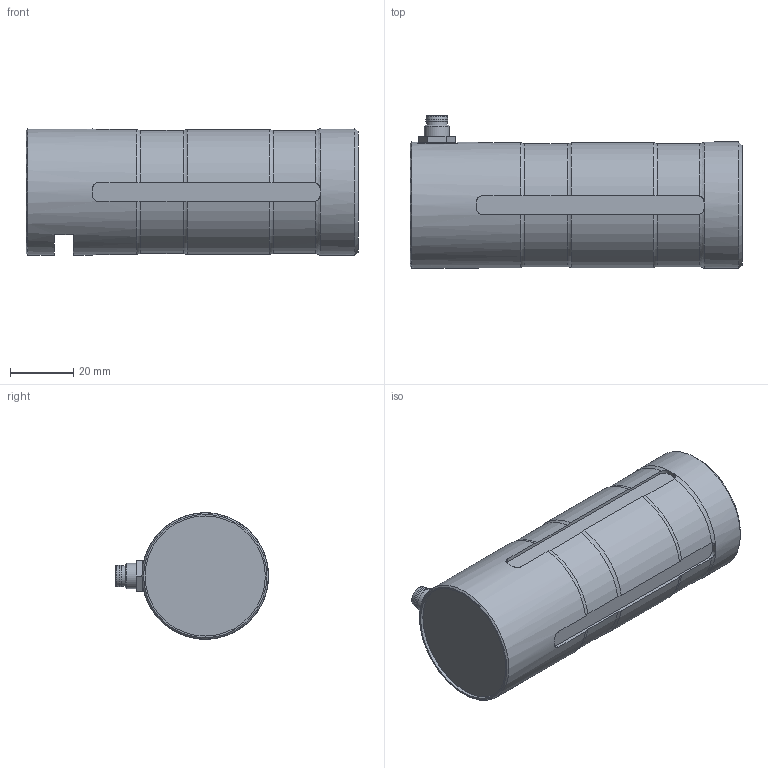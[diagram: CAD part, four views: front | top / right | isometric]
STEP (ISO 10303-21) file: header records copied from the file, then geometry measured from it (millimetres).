
FILE_DESCRIPTION(/* description */ ('Alibre Inc.'),/* implementation_level */ '2;1');
FILE_NAME(/* name */ 'export1',/* time_stamp */ '2018-07-25T10:45:45+02:00',/* author */ (''),/* organization */ (''),/* preprocessor_version */ 'ST-DEVELOPER v17',/* originating_system */ 'Alibre',/* authorisation */ '');
FILE_SCHEMA (('CONFIG_CONTROL_DESIGN'));
Length unit declared in the file: millimetre
Products named in the file (3): ID_1; ID_2
Bounding box: 105 x 48.36 x 40 mm (x, y, z)
Volume: 126738.7 mm3; surface area: 17904.6 mm2
Topology: 2 solids, 2 shells, 211 faces, 548 edges, 358 vertices
Faces by surface type: plane 98, cylinder 75, torus 20, cone 10, sphere 8
Full cylindrical faces by diameter (mm): 0.6 x8, 0.65 x8, 0.9 x8, 6.5 x1, 6.9 x2, 6.95 x1, 7.459 x1, 8 x1, 38 x1, 40 x2
Entity records: 6703 total; most frequent: CARTESIAN_POINT 2018, ORIENTED_EDGE 888, DIRECTION 781, EDGE_CURVE 444, AXIS2_PLACEMENT_3D 330, VERTEX_POINT 317, FACE_BOUND 291, EDGE_LOOP 290
